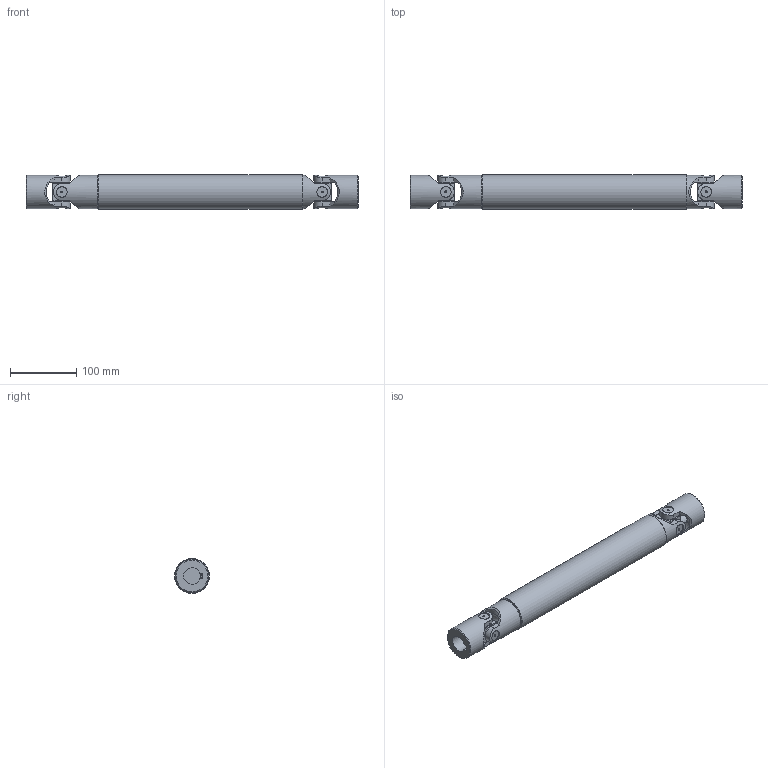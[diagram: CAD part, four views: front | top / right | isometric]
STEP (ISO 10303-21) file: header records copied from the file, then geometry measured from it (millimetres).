
FILE_DESCRIPTION(/* description */ (''),/* implementation_level */ '2;1');
FILE_NAME(/* name */ '\\SRV2016\Societa\Stefano\Disegni 3D\00Catalogo 3D\03Trasmissioni standard GA\5GA32\5GA32_SG0A2532.stp',/* time_stamp */ '2022-03-15T16:47:08+01:00',/* author */ ('acquisti'),/* organization */ (''),/* preprocessor_version */ 'ST-DEVELOPER v15.6',/* originating_system */ 'Autodesk Inventor 2015',/* authorisation */ '');
FILE_SCHEMA (('AUTOMOTIVE_DESIGN { 1 0 10303 214 3 1 1 }'));
Length unit declared in the file: millimetre
Products named in the file (5): 5G MOC; 5G SFE; 5GA32 LAI; 5GA32 LCI; 5GA32_SG0A2532
Assembly tree (6 placements, depth 2):
  5GA32_SG0A2532
    5G MOC  x2
    5G SFE  x2
    5GA32 LAI
    5GA32 LCI
Bounding box: 500 x 52.5 x 52.5 mm (x, y, z)
Volume: 677671.1 mm3; surface area: 188758.1 mm2
Topology: 6 solids, 6 shells, 204 faces, 513 edges, 345 vertices
Faces by surface type: plane 108, cylinder 68, cone 24, torus 4
Full cylindrical faces by diameter (mm): 3 x8, 16 x8, 23 x8, 28 x1, 32.4 x1, 45 x1, 50 x4, 52.5 x1
Entity records: 5370 total; most frequent: CARTESIAN_POINT 1605, DIRECTION 751, ORIENTED_EDGE 742, EDGE_CURVE 371, AXIS2_PLACEMENT_3D 299, VERTEX_POINT 269, EDGE_LOOP 210, FACE_OUTER_BOUND 158
